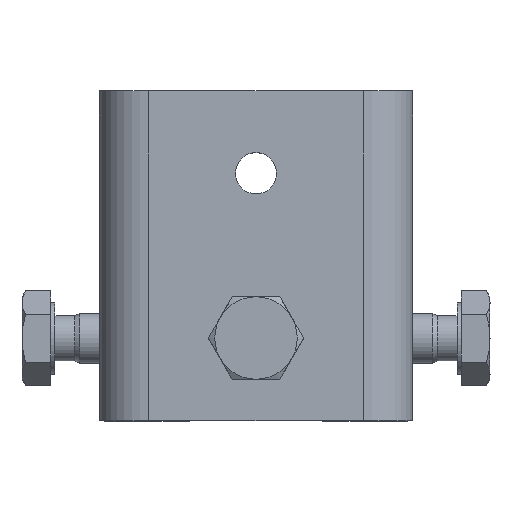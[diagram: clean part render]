
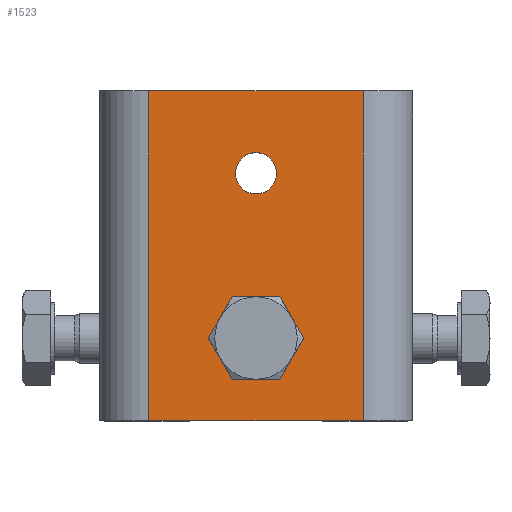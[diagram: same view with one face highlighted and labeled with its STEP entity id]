
A CAD part, top view. The second image highlights one B-rep face of the part: STEP entity #1523.
In plain terms, the highlighted planar face has unit normal (0, 0, 1).
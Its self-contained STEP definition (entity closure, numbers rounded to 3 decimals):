
#55=FACE_BOUND('',#196,.T.);
#56=FACE_BOUND('',#197,.T.);
#98=FACE_OUTER_BOUND('',#195,.T.);
#195=EDGE_LOOP('',(#1025,#1026,#1027,#1028));
#196=EDGE_LOOP('',(#1029,#1030));
#197=EDGE_LOOP('',(#1031));
#308=LINE('',#2360,#451);
#310=LINE('',#2364,#453);
#311=LINE('',#2366,#454);
#312=LINE('',#2367,#455);
#451=VECTOR('',#1875,10.);
#453=VECTOR('',#1879,10.);
#454=VECTOR('',#1880,10.);
#455=VECTOR('',#1881,10.);
#592=CIRCLE('',#1688,2.459);
#593=CIRCLE('',#1689,2.459);
#594=CIRCLE('',#1690,2.5);
#659=VERTEX_POINT('',#2344);
#662=VERTEX_POINT('',#2351);
#664=VERTEX_POINT('',#2363);
#665=VERTEX_POINT('',#2365);
#666=VERTEX_POINT('',#2368);
#667=VERTEX_POINT('',#2369);
#668=VERTEX_POINT('',#2372);
#796=EDGE_CURVE('',#659,#662,#308,.T.);
#798=EDGE_CURVE('',#662,#664,#310,.T.);
#799=EDGE_CURVE('',#664,#665,#311,.T.);
#800=EDGE_CURVE('',#665,#659,#312,.T.);
#801=EDGE_CURVE('',#666,#667,#592,.T.);
#802=EDGE_CURVE('',#667,#666,#593,.T.);
#803=EDGE_CURVE('',#668,#668,#594,.T.);
#1025=ORIENTED_EDGE('',*,*,#796,.T.);
#1026=ORIENTED_EDGE('',*,*,#798,.T.);
#1027=ORIENTED_EDGE('',*,*,#799,.T.);
#1028=ORIENTED_EDGE('',*,*,#800,.T.);
#1029=ORIENTED_EDGE('',*,*,#801,.T.);
#1030=ORIENTED_EDGE('',*,*,#802,.T.);
#1031=ORIENTED_EDGE('',*,*,#803,.T.);
#1457=PLANE('',#1687);
#1523=ADVANCED_FACE('',(#98,#55,#56),#1457,.T.);
#1687=AXIS2_PLACEMENT_3D('',#2362,#1877,#1878);
#1688=AXIS2_PLACEMENT_3D('',#2370,#1882,#1883);
#1689=AXIS2_PLACEMENT_3D('',#2371,#1884,#1885);
#1690=AXIS2_PLACEMENT_3D('',#2373,#1886,#1887);
#1875=DIRECTION('',(0.,1.,0.));
#1877=DIRECTION('center_axis',(0.,0.,1.));
#1878=DIRECTION('ref_axis',(1.,0.,0.));
#1879=DIRECTION('',(-1.,0.,0.));
#1880=DIRECTION('',(0.,-1.,0.));
#1881=DIRECTION('',(1.,0.,0.));
#1882=DIRECTION('center_axis',(0.,0.,-1.));
#1883=DIRECTION('ref_axis',(1.,0.,0.));
#1884=DIRECTION('center_axis',(0.,0.,-1.));
#1885=DIRECTION('ref_axis',(1.,0.,0.));
#1886=DIRECTION('center_axis',(0.,0.,-1.));
#1887=DIRECTION('ref_axis',(-1.,0.,0.));
#2344=CARTESIAN_POINT('',(13.,-20.,0.));
#2351=CARTESIAN_POINT('',(13.,20.,0.));
#2360=CARTESIAN_POINT('',(13.,10.,0.));
#2362=CARTESIAN_POINT('Origin',(53.468,0.,0.));
#2363=CARTESIAN_POINT('',(-13.,20.,0.));
#2364=CARTESIAN_POINT('',(55.436,20.,0.));
#2365=CARTESIAN_POINT('',(-13.,-20.,0.));
#2366=CARTESIAN_POINT('',(-13.,-10.,0.));
#2367=CARTESIAN_POINT('',(-55.436,-20.,0.));
#2368=CARTESIAN_POINT('',(2.459,-10.,0.));
#2369=CARTESIAN_POINT('',(-2.459,-10.,0.));
#2370=CARTESIAN_POINT('Origin',(0.,-10.,0.));
#2371=CARTESIAN_POINT('Origin',(0.,-10.,0.));
#2372=CARTESIAN_POINT('',(2.5,10.,0.));
#2373=CARTESIAN_POINT('Origin',(0.,10.,0.));
